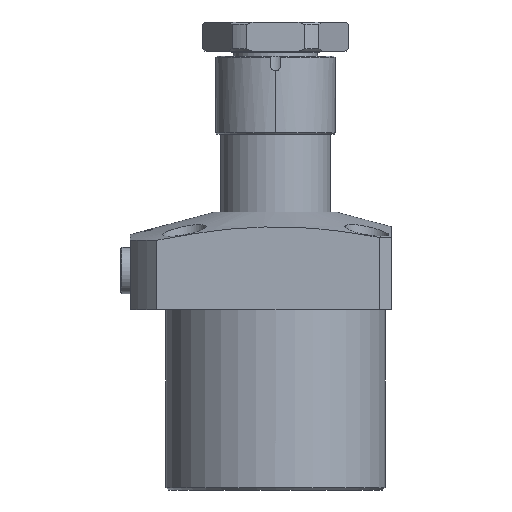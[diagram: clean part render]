
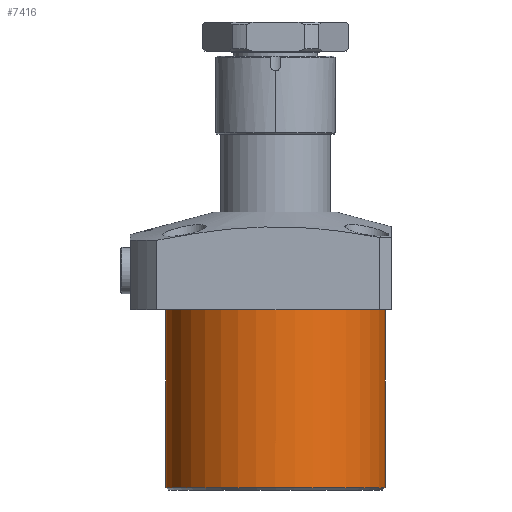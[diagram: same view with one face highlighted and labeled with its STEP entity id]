
A CAD part, front view. The second image highlights one B-rep face of the part: STEP entity #7416.
In plain terms, the highlighted cylindrical face has radius 45 mm (diameter 90 mm), a partial arc.
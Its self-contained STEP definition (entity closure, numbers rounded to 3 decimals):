
#111 = AXIS2_PLACEMENT_3D ( 'NONE', #11835, #4022, #13160 ) ;
#348 = CARTESIAN_POINT ( 'NONE',  ( 0., 0., -73. ) ) ;
#1405 = EDGE_CURVE ( 'NONE', #8421, #8123, #13864, .T. ) ;
#1691 = DIRECTION ( 'NONE',  ( -1., 0., 0. ) ) ;
#1767 = CARTESIAN_POINT ( 'NONE',  ( 45., 0., -74. ) ) ;
#2181 = FACE_OUTER_BOUND ( 'NONE', #9591, .T. ) ;
#3132 = LINE ( 'NONE', #1767, #6209 ) ;
#3172 = AXIS2_PLACEMENT_3D ( 'NONE', #348, #9481, #1691 ) ;
#4022 = DIRECTION ( 'NONE',  ( 0., 0., -1. ) ) ;
#4191 = ORIENTED_EDGE ( 'NONE', *, *, #15728, .F. ) ;
#4308 = CARTESIAN_POINT ( 'NONE',  ( -45., 0., 0. ) ) ;
#6209 = VECTOR ( 'NONE', #9551, 1000. ) ;
#6622 = LINE ( 'NONE', #14292, #16596 ) ;
#7416 = ADVANCED_FACE ( 'NONE', ( #2181 ), #8704, .T. ) ;
#8123 = VERTEX_POINT ( 'NONE', #13186 ) ;
#8402 = DIRECTION ( 'NONE',  ( 1., 0., 0. ) ) ;
#8421 = VERTEX_POINT ( 'NONE', #11184 ) ;
#8593 = EDGE_CURVE ( 'NONE', #13707, #11278, #15454, .T. ) ;
#8659 = CARTESIAN_POINT ( 'NONE',  ( 45., 0., 0. ) ) ;
#8704 = CYLINDRICAL_SURFACE ( 'NONE', #10713, 45. ) ;
#9481 = DIRECTION ( 'NONE',  ( 0., 0., 1. ) ) ;
#9551 = DIRECTION ( 'NONE',  ( 0., 0., 1. ) ) ;
#9591 = EDGE_LOOP ( 'NONE', ( #4191, #16620, #13894, #14065 ) ) ;
#10450 = DIRECTION ( 'NONE',  ( 0., 0., 1. ) ) ;
#10713 = AXIS2_PLACEMENT_3D ( 'NONE', #16173, #13549, #8402 ) ;
#11184 = CARTESIAN_POINT ( 'NONE',  ( -45., 0., -73. ) ) ;
#11278 = VERTEX_POINT ( 'NONE', #4308 ) ;
#11835 = CARTESIAN_POINT ( 'NONE',  ( 0., 0., 0. ) ) ;
#13160 = DIRECTION ( 'NONE',  ( -1., 0., 0. ) ) ;
#13186 = CARTESIAN_POINT ( 'NONE',  ( 45., 0., -73. ) ) ;
#13549 = DIRECTION ( 'NONE',  ( 0., 0., 1. ) ) ;
#13707 = VERTEX_POINT ( 'NONE', #8659 ) ;
#13864 = CIRCLE ( 'NONE', #3172, 45. ) ;
#13894 = ORIENTED_EDGE ( 'NONE', *, *, #14799, .T. ) ;
#14065 = ORIENTED_EDGE ( 'NONE', *, *, #8593, .T. ) ;
#14292 = CARTESIAN_POINT ( 'NONE',  ( -45., 0., -74. ) ) ;
#14799 = EDGE_CURVE ( 'NONE', #8123, #13707, #3132, .T. ) ;
#15454 = CIRCLE ( 'NONE', #111, 45. ) ;
#15728 = EDGE_CURVE ( 'NONE', #8421, #11278, #6622, .T. ) ;
#16173 = CARTESIAN_POINT ( 'NONE',  ( 0., 0., -74. ) ) ;
#16596 = VECTOR ( 'NONE', #10450, 1000. ) ;
#16620 = ORIENTED_EDGE ( 'NONE', *, *, #1405, .T. ) ;
